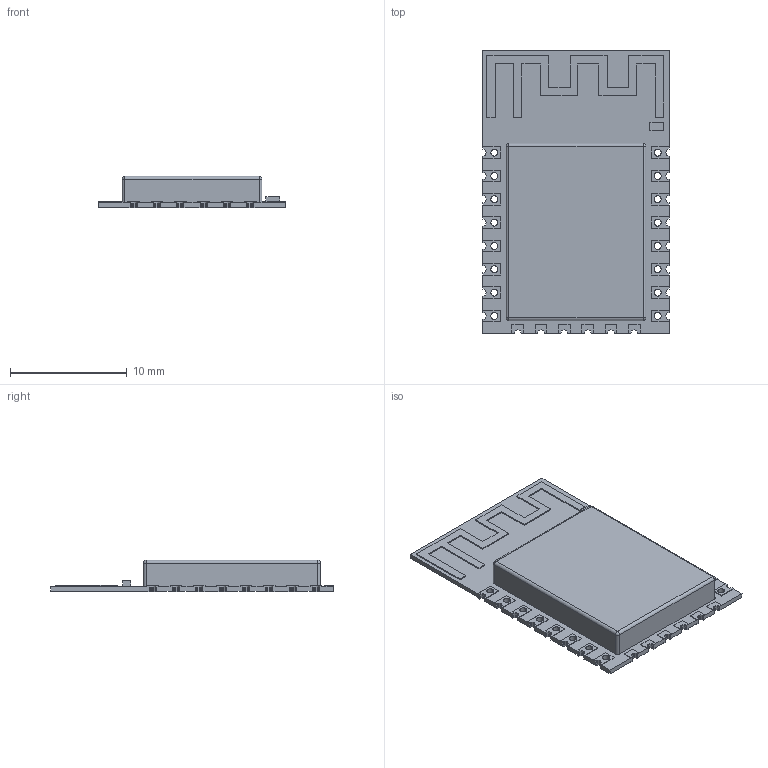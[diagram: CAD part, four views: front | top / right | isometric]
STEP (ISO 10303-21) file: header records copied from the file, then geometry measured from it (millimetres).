
FILE_DESCRIPTION(('CATIA V5 STEP Exchange'),'2;1');
FILE_NAME('X:\XDrive\Homepage\homes\techecke\arduino\downloads\ESP-12F.stp','2024-10-28T16:06:01+00:00',('none'),('none'),'CATIA Version 5 Release 19 SP 2 (IN-10)','CATIA V5 STEP AP203','none');
FILE_SCHEMA(('CONFIG_CONTROL_DESIGN'));
Length unit declared in the file: millimetre
Products named in the file (1): ESP-12F
Bounding box: 16 x 24.25 x 2.71 mm (x, y, z)
Volume: 571.3 mm3; surface area: 1370.1 mm2
Topology: 4 solids, 4 shells, 494 faces, 1434 edges, 944 vertices
Faces by surface type: plane 450, cylinder 40, sphere 4
Entity records: 17527 total; most frequent: CARTESIAN_POINT 4586, ORIENTED_EDGE 2860, DIRECTION 2338, EDGE_CURVE 1430, VECTOR 1350, LINE 1350, VERTEX_POINT 944, EDGE_LOOP 526
